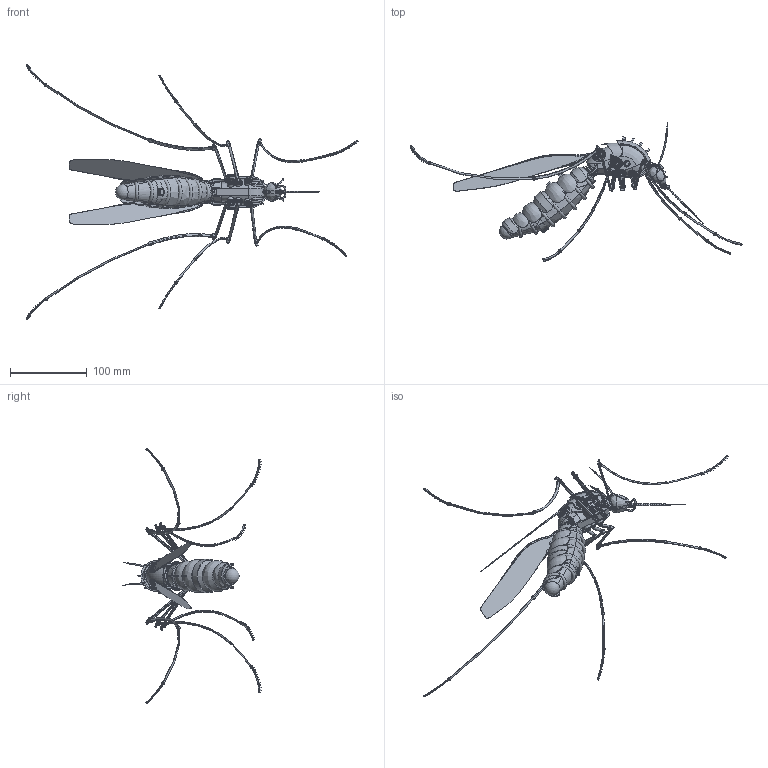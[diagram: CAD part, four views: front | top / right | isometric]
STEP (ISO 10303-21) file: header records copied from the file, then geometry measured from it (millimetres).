
FILE_DESCRIPTION( ( 'STEP AP214' ), '1' );
FILE_NAME( 'p:/temp/worker_420/temp/exporttempdir_4572_78_v0D4i/format_1/Mosquito Robot 2.stp', '2020-07-20T08:25:52', ( 'License CC BY-ND 4.0' ), ( 'CADENAS' ), ' ', 'PARTsolutions', ' ' );
FILE_SCHEMA( ( 'AUTOMOTIVE_DESIGN { 1 0 10303 214 1 1 1 1 }' ) );
Length unit declared in the file: millimetre
Products named in the file (15): Mosquito Robot 2; _Mosquito Robot 2body; _Mosquito Robot head; _Mosquito Robot tic; _Mosquito Robot body2; _Mosquito Robot body3; _Mosquito Robot body31; _Mosquito Robot leg1; _Mosquito Robot leg11; _Mosquito Robot leg21; _Mosquito Robot leg31; _Mosquito Robot leg2; _Mosquito Robot leg3; _Mosquito Robot wing1; _Mosquito Robot wing2
Assembly tree (15 placements, depth 2):
  Mosquito Robot 2
    _Mosquito Robot 2body
    _Mosquito Robot head
    _Mosquito Robot tic  x2
    _Mosquito Robot body2
    _Mosquito Robot body3
    _Mosquito Robot body31
    _Mosquito Robot leg1
    _Mosquito Robot leg11
    _Mosquito Robot leg21
    _Mosquito Robot leg31
    _Mosquito Robot leg2
    _Mosquito Robot leg3
    _Mosquito Robot wing1
    _Mosquito Robot wing2
Bounding box: 431.75 x 180.3 x 331.8 mm (x, y, z)
Volume: 219818.2 mm3; surface area: 113130.4 mm2
Topology: 15 solids, 15 shells, 2875 faces, 7917 edges, 5152 vertices
Faces by surface type: plane 1922, cylinder 369, torus 268, cone 136, bspline 129, sphere 51
Full cylindrical faces by diameter (mm): 0.7 x4, 1 x14, 2.1 x5, 2.4 x5, 2.8 x6, 4 x11, 5 x2, 6 x8, 6.6 x1, 9 x1, 9.4 x2, 9.8 x2, 10 x4, 10.5 x2, 14 x2, 15 x2
Entity records: 122677 total; most frequent: CARTESIAN_POINT 30350, ORIENTED_EDGE 14796, DIRECTION 13376, EDGE_CURVE 7398, VERTEX_POINT 4990, AXIS2_PLACEMENT_3D 4603, LINE 4170, VECTOR 4170
